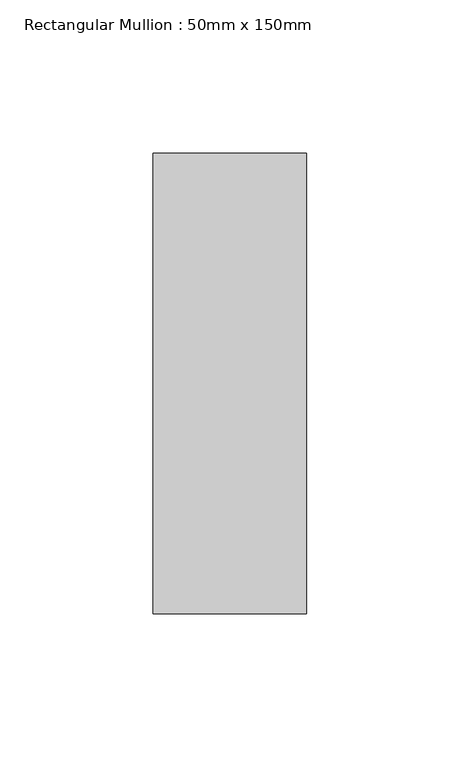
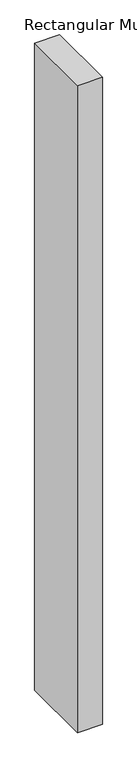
"""IFC4 building model written with IfcOpenShell, lengths in millimetres: member geometry, Rectangular Mullion : 50mm x 150mm."""

from ifc_helpers import new_model, si_unit, frame, origin, place, context, project, spatial, polyline, outline, extrude, source, transform, mapped, element, save


def rectangular_mullion_50mm_x_150mm_59c12ec9(model_context):
    return source(origin(), model_context, "Body", "SweptSolid", [
        extrude(outline(polyline([(25.0, 75.0), (25.0, -75.0), (-25.0, -75.0), (-25.0, 75.0), (25.0, 75.0)])), frame((0.0, 0.0, -1383.1666669), z_axis=(0.0, 0.0, 1.0), x_axis=(1.0, 0.0, 0.0)), (0.0, 0.0, 1.0), 1383.1666669),
    ])


if __name__ == "__main__":
    model = new_model("IFC4")
    model_context = context("Model", 3, world=origin())
    ifc_project = project(units=[si_unit("LENGTHUNIT", "METRE", prefix="MILLI")], contexts=[model_context])
    site = spatial("IfcSite", under=ifc_project)
    building = spatial("IfcBuilding", under=site)
    placement = place(None, origin())
    rectangular_mullion_50mm_x_150mm_shape = rectangular_mullion_50mm_x_150mm_59c12ec9(model_context)
    element("IfcMember", 1, ObjectType="Rectangular Mullion : 50mm x 150mm", at=placement, inside=building, context=model_context, shape_type="MappedRepresentation", body=[
        mapped(rectangular_mullion_50mm_x_150mm_shape, transform((0.0, 0.0, 0.0), x_axis=(1.0, 0.0, 0.0), y_axis=(0.0, 1.0, 0.0), z_axis=(0.0, 0.0, 1.0))),
    ])
    save(model, "model.ifc")
